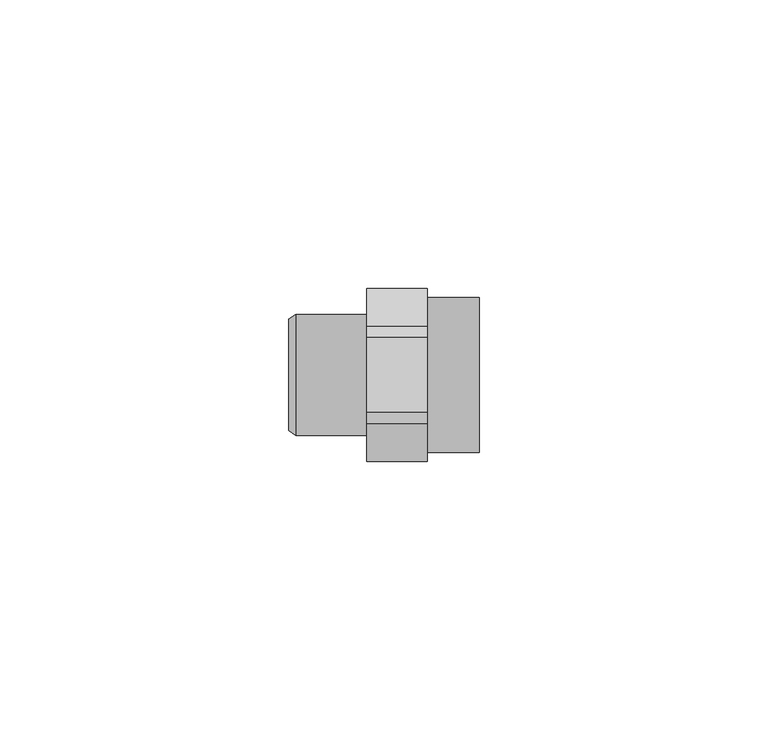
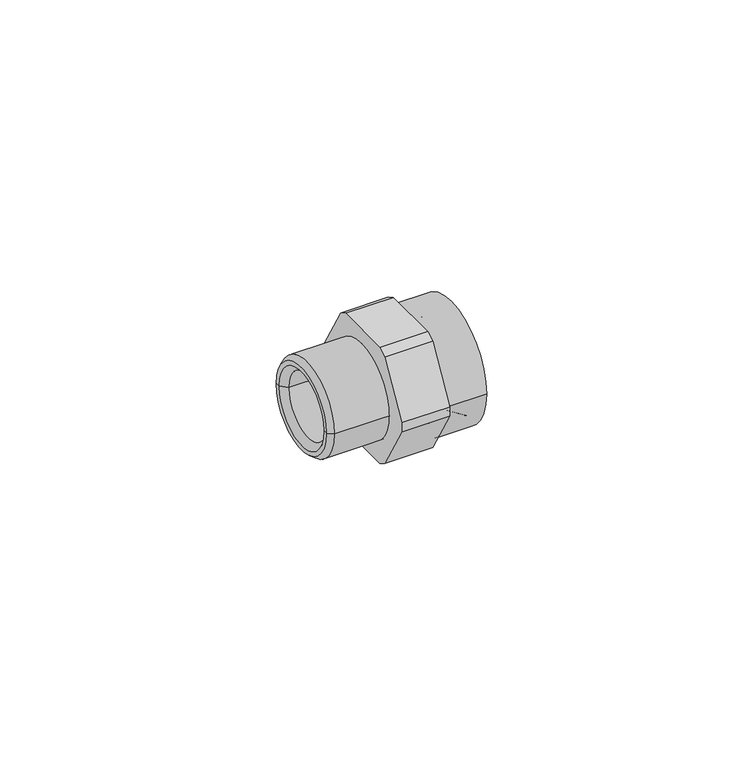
"""IFC4 building model written with IfcOpenShell, lengths in millimetres: pipe fitting geometry."""

from ifc_helpers import new_model, si_unit, frame, origin, place, context, project, spatial, polyline, circle_curve, outline, extrude, source, transform, mapped, element, save
from ifc_brep_helpers import plane_surface, cylinder_surface, revolved_surface, advanced_brep


def pipe_fitting_687f7d2e(model_context):
    return source(origin(), model_context, "Body", "SolidModel", [
        extrude(outline(polyline([(-6.5383245, 13.5), (6.5385489, 13.5), (8.4220685, 12.4125495), (14.9602763, 1.0880414), (14.9602763, -1.0880414), (8.4221747, -12.4123655), (6.5383364, -13.5), (-6.5383089, -13.5), (-8.4221885, -12.4123416), (-14.9605979, -1.0874844), (-14.9605979, 1.0874844), (-8.4221807, 12.4123551), (-6.5383245, 13.5)])), frame((-5.25, 0.0, 0.0), z_axis=(1.0, 0.0, 0.0), x_axis=(0.0, 1.0, 0.0)), (0.0, 0.0, 1.0), 10.5122724),
        advanced_brep(
        [(-18.75, -9.6395542, 0.0), (-18.75, 9.6395542, 0.0), (-17.5503657, 10.4795472, 0.0), (-17.5503657, -10.4795472, 0.0), (-18.75, -8.6500007, 0.0), (-18.75, 8.6500007, 0.0), (-17.35, -7.2500008, 0.0), (-17.35, 7.2500008, 0.0), (-1.3150002, -7.2500008, 0.0), (-1.3150002, 7.2500008, 0.0), (0.7500001, -9.315001, 0.0), (0.7500001, 9.315001, 0.0), (10.9103263, -9.315001, 0.0), (10.9103263, 9.315001, 0.0), (14.25, -11.2431625, 0.0), (14.25, 11.2431625, 0.0), (14.25, -13.4387016, 0.0), (14.25, 13.4387016, 0.0), (5.2622724, -13.4387016, 0.0), (5.2622724, 13.4387016, 0.0), (5.2622724, -10.4795472, 0.0), (5.2622724, 10.4795472, 0.0)],
        [
            (0, 1, circle_curve(frame((-18.75, 0.0, 0.0), z_axis=(1.0, 0.0, 0.0), x_axis=(0.0, 1.0, 0.0)), 9.6395542)),
            (1, 2),
            (2, 3, circle_curve(frame((-17.5503657, 0.0, 0.0), z_axis=(-1.0, 0.0, 0.0), x_axis=(0.0, 1.0, 0.0)), 10.4795472)),
            (3, 0),
            (1, 0, circle_curve(frame((-18.75, 0.0, 0.0), z_axis=(1.0, 0.0, 0.0), x_axis=(0.0, 1.0, 0.0)), 9.6395542)),
            (3, 2, circle_curve(frame((-17.5503657, 0.0, 0.0), z_axis=(-1.0, 0.0, 0.0), x_axis=(0.0, 1.0, 0.0)), 10.4795472)),
            (4, 5, circle_curve(frame((-18.75, 0.0, 0.0), z_axis=(1.0, 0.0, 0.0), x_axis=(0.0, 1.0, 0.0)), 8.6500007)),
            (5, 1),
            (0, 4),
            (5, 4, circle_curve(frame((-18.75, 0.0, 0.0), z_axis=(1.0, 0.0, 0.0), x_axis=(0.0, 1.0, 0.0)), 8.6500007)),
            (6, 7, circle_curve(frame((-17.35, 0.0, 0.0), z_axis=(1.0, 0.0, 0.0), x_axis=(0.0, 1.0, 0.0)), 7.2500008)),
            (7, 5),
            (4, 6),
            (7, 6, circle_curve(frame((-17.35, 0.0, 0.0), z_axis=(1.0, 0.0, 0.0), x_axis=(0.0, 1.0, 0.0)), 7.2500008)),
            (8, 9, circle_curve(frame((-1.3150002, 0.0, 0.0), z_axis=(1.0, 0.0, 0.0), x_axis=(0.0, 1.0, 0.0)), 7.2500008)),
            (9, 7),
            (6, 8),
            (9, 8, circle_curve(frame((-1.3150002, 0.0, 0.0), z_axis=(1.0, 0.0, 0.0), x_axis=(0.0, 1.0, 0.0)), 7.2500008)),
            (10, 11, circle_curve(frame((0.7500001, 0.0, 0.0), z_axis=(1.0, 0.0, 0.0), x_axis=(0.0, 1.0, 0.0)), 9.315001)),
            (11, 9),
            (8, 10),
            (11, 10, circle_curve(frame((0.7500001, 0.0, 0.0), z_axis=(1.0, 0.0, 0.0), x_axis=(0.0, 1.0, 0.0)), 9.315001)),
            (12, 13, circle_curve(frame((10.9103263, 0.0, 0.0), z_axis=(1.0, 0.0, 0.0), x_axis=(0.0, 1.0, 0.0)), 9.315001)),
            (13, 11),
            (10, 12),
            (13, 12, circle_curve(frame((10.9103263, 0.0, 0.0), z_axis=(1.0, 0.0, 0.0), x_axis=(0.0, 1.0, 0.0)), 9.315001)),
            (14, 15, circle_curve(frame((14.25, 0.0, 0.0), z_axis=(1.0, 0.0, 0.0), x_axis=(0.0, 1.0, 0.0)), 11.2431625)),
            (15, 13),
            (12, 14),
            (15, 14, circle_curve(frame((14.25, 0.0, 0.0), z_axis=(1.0, 0.0, 0.0), x_axis=(0.0, 1.0, 0.0)), 11.2431625)),
            (16, 17, circle_curve(frame((14.25, 0.0, 0.0), z_axis=(1.0, 0.0, 0.0), x_axis=(0.0, 1.0, 0.0)), 13.4387016)),
            (17, 15),
            (14, 16),
            (17, 16, circle_curve(frame((14.25, 0.0, 0.0), z_axis=(1.0, 0.0, 0.0), x_axis=(0.0, 1.0, 0.0)), 13.4387016)),
            (18, 19, circle_curve(frame((5.2622724, 0.0, 0.0), z_axis=(1.0, 0.0, 0.0), x_axis=(0.0, 1.0, 0.0)), 13.4387016)),
            (19, 17),
            (16, 18),
            (19, 18, circle_curve(frame((5.2622724, 0.0, 0.0), z_axis=(1.0, 0.0, 0.0), x_axis=(0.0, 1.0, 0.0)), 13.4387016)),
            (20, 21, circle_curve(frame((5.2622724, 0.0, 0.0), z_axis=(1.0, 0.0, 0.0), x_axis=(0.0, 1.0, 0.0)), 10.4795472)),
            (21, 19),
            (18, 20),
            (21, 20, circle_curve(frame((5.2622724, 0.0, 0.0), z_axis=(1.0, 0.0, 0.0), x_axis=(0.0, 1.0, 0.0)), 10.4795472)),
            (2, 21),
            (20, 3),
        ],
        [
            revolved_surface(polyline([(-17.5503657, 10.4795472, 0.0), (-18.75, 9.6395542, 0.0)]), (-32.5167101, 0.0, 0.0), (-1.0, 0.0, 0.0)),
            plane_surface(frame((-18.75, 0.0, 0.0), z_axis=(-1.0, 0.0, 0.0), x_axis=(0.0, 1.0, 0.0))),
            revolved_surface(polyline([(-18.75, 8.6500007, 0.0), (-17.35, 7.2500008, 0.0)]), (-32.5167101, 0.0, 0.0), (-1.0, 0.0, 0.0)),
            revolved_surface(polyline([(-17.35, 7.2500008, 0.0), (-1.3150002, 7.2500008, 0.0)]), (-32.5167101, 0.0, 0.0), (-1.0, 0.0, 0.0)),
            revolved_surface(polyline([(-1.3150002, 7.2500008, 0.0), (0.7500001, 9.315001, 0.0)]), (-32.5167101, 0.0, 0.0), (-1.0, 0.0, 0.0)),
            revolved_surface(polyline([(0.7500001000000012, 9.315001, 0.0), (10.910326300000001, 9.315001, 0.0)]), (-32.5167101, 0.0, 0.0), (-1.0, 0.0, 0.0)),
            revolved_surface(polyline([(10.9103263, 9.315001, 0.0), (14.25, 11.2431625, 0.0)]), (-32.5167101, 0.0, 0.0), (-1.0, 0.0, 0.0)),
            plane_surface(frame((14.25, 0.0, 0.0), z_axis=(1.0, 0.0, 0.0), x_axis=(0.0, 1.0, 0.0))),
            cylinder_surface(frame((-32.5167101, 0.0, 0.0), z_axis=(-1.0, 0.0, 0.0), x_axis=(0.0, 1.0, 0.0)), 13.4387016),
            plane_surface(frame((5.2622724, 0.0, 0.0), z_axis=(-1.0, 0.0, 0.0), x_axis=(0.0, 1.0, 0.0))),
            cylinder_surface(frame((-32.5167101, 0.0, 0.0), z_axis=(-1.0, 0.0, 0.0), x_axis=(0.0, 1.0, 0.0)), 10.4795472),
        ],
        [
            (0, [[1, 2, 3, 4]]),
            (0, [[5, -4, 6, -2]]),
            (1, [[7, 8, -1, 9]]),
            (1, [[10, -9, -5, -8]]),
            (2, [[11, 12, -7, 13]]),
            (2, [[14, -13, -10, -12]]),
            (3, [[15, 16, -11, 17]]),
            (3, [[18, -17, -14, -16]]),
            (4, [[19, 20, -15, 21]]),
            (4, [[22, -21, -18, -20]]),
            (5, [[23, 24, -19, 25]]),
            (5, [[26, -25, -22, -24]]),
            (6, [[27, 28, -23, 29]]),
            (6, [[30, -29, -26, -28]]),
            (7, [[31, 32, -27, 33]]),
            (7, [[34, -33, -30, -32]]),
            (8, [[35, 36, -31, 37]]),
            (8, [[38, -37, -34, -36]]),
            (9, [[39, 40, -35, 41]]),
            (9, [[42, -41, -38, -40]]),
            (10, [[-3, 43, -39, 44]]),
            (10, [[-6, -44, -42, -43]]),
        ],
    ),
    ])


if __name__ == "__main__":
    model = new_model("IFC4")
    model_context = context("Model", 3, world=origin())
    ifc_project = project(units=[si_unit("LENGTHUNIT", "METRE", prefix="MILLI")], contexts=[model_context])
    site = spatial("IfcSite", under=ifc_project)
    building = spatial("IfcBuilding", under=site)
    placement = place(None, origin())
    pipe_fitting_shape = pipe_fitting_687f7d2e(model_context)
    element("IfcPipeFitting", 1, ObjectType="Conversion Nipple 1/2\"FT : Superpipe Conversion Nipple - 1/2\"MT -1/2\"FT", at=placement, inside=building, context=model_context, shape_type="MappedRepresentation", body=[
        mapped(pipe_fitting_shape, transform((0.0, 0.0, 0.0), x_axis=(1.0, 0.0, 0.0), y_axis=(0.0, 1.0, 0.0), z_axis=(0.0, 0.0, 1.0))),
    ])
    save(model, "model.ifc")
